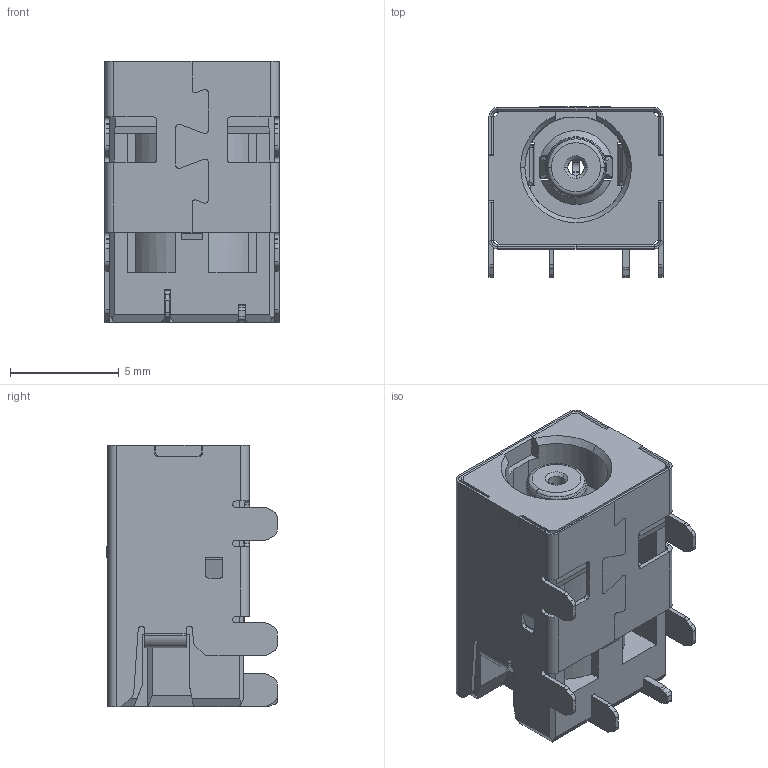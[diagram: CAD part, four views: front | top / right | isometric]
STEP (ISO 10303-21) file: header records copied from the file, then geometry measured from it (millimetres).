
FILE_DESCRIPTION (( 'STEP AP203' ), '1' );
FILE_NAME ('DC-S008A-D006-6.5A.STEP', '2023-07-14T11:12:16', ( '' ), ( '' ), 'SwSTEP 2.0', 'SolidWorks 2023', '' );
FILE_SCHEMA (( 'CONFIG_CONTROL_DESIGN' ));
Length unit declared in the file: millimetre
Products named in the file (1): DC-S008A-D006-6.5A
Bounding box: 8.05 x 7.85 x 12 mm (x, y, z)
Volume: 399.7 mm3; surface area: 1532.2 mm2
Topology: 1 solids, 1 shells, 1077 faces, 2898 edges, 1805 vertices
Faces by surface type: plane 762, cylinder 187, bspline 82, cone 42, torus 4
Entity records: 37201 total; most frequent: CARTESIAN_POINT 10543, ORIENTED_EDGE 5796, DIRECTION 5126, EDGE_CURVE 2898, LINE 2254, VECTOR 2254, VERTEX_POINT 1805, AXIS2_PLACEMENT_3D 1436
